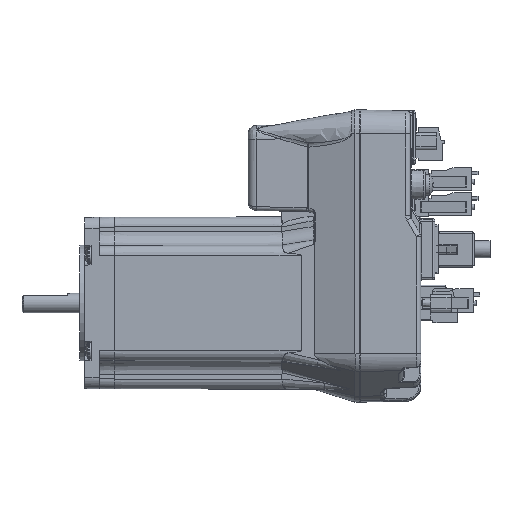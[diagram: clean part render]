
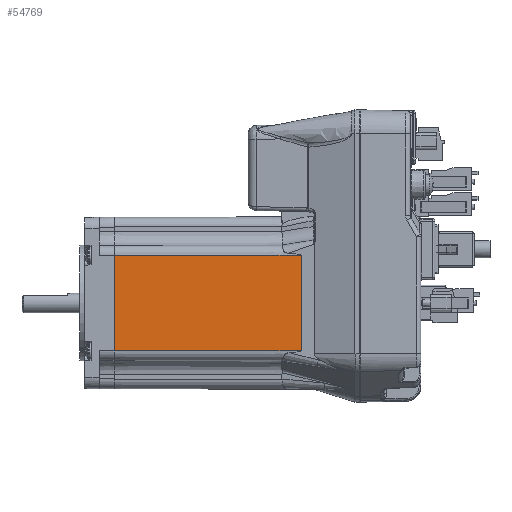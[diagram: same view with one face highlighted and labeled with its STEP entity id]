
A CAD part, left-side view. The second image highlights one B-rep face of the part: STEP entity #54769.
In plain terms, the highlighted planar face has unit normal (-1, 0.002, 0).
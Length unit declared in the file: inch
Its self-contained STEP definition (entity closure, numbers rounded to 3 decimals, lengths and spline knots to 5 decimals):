
#53933=CARTESIAN_POINT('',(-1.1149,1.4112,0.61853));
#53934=VERTEX_POINT('',#53933);
#53942=CARTESIAN_POINT('',(-1.1149,1.4112,-0.61853));
#53943=VERTEX_POINT('',#53942);
#53944=CARTESIAN_POINT('',(-1.1149,1.4112,-0.5836));
#53945=DIRECTION('',(0.,0.,-1.));
#53946=VECTOR('',#53945,1.);
#53947=LINE('',#53944,#53946);
#53948=EDGE_CURVE('',#53934,#53943,#53947,.T.);
#54739=CARTESIAN_POINT('',(-1.11048,3.82905,-0.61853));
#54740=VERTEX_POINT('',#54739);
#54741=CARTESIAN_POINT('',(-1.11048,3.82905,0.61853));
#54742=VERTEX_POINT('',#54741);
#54743=CARTESIAN_POINT('',(-1.11048,3.82905,-1.0718));
#54744=DIRECTION('',(0.,0.,1.));
#54745=VECTOR('',#54744,1.);
#54746=LINE('',#54743,#54745);
#54747=EDGE_CURVE('',#54740,#54742,#54746,.T.);
#54748=ORIENTED_EDGE('',*,*,#54747,.F.);
#54749=CARTESIAN_POINT('',(-1.11057,3.77855,-0.61853));
#54750=DIRECTION('',(-0.002,-1.,0.));
#54751=VECTOR('',#54750,1.);
#54752=LINE('',#54749,#54751);
#54753=EDGE_CURVE('',#54740,#53943,#54752,.T.);
#54754=ORIENTED_EDGE('',*,*,#54753,.T.);
#54755=ORIENTED_EDGE('',*,*,#53948,.F.);
#54756=CARTESIAN_POINT('',(-1.11057,3.77855,0.61853));
#54757=DIRECTION('',(-0.002,-1.,0.));
#54758=VECTOR('',#54757,1.);
#54759=LINE('',#54756,#54758);
#54760=EDGE_CURVE('',#54742,#53934,#54759,.T.);
#54761=ORIENTED_EDGE('',*,*,#54760,.F.);
#54762=EDGE_LOOP('',(#54748,#54754,#54755,#54761));
#54763=FACE_OUTER_BOUND('',#54762,.T.);
#54764=CARTESIAN_POINT('',(-1.11057,3.77855,-0.61853));
#54765=DIRECTION('',(-1.,0.002,0.));
#54766=DIRECTION('',(0.,0.,-1.));
#54767=AXIS2_PLACEMENT_3D('',#54764,#54765,#54766);
#54768=PLANE('',#54767);
#54769=ADVANCED_FACE('',(#54763),#54768,.T.);
